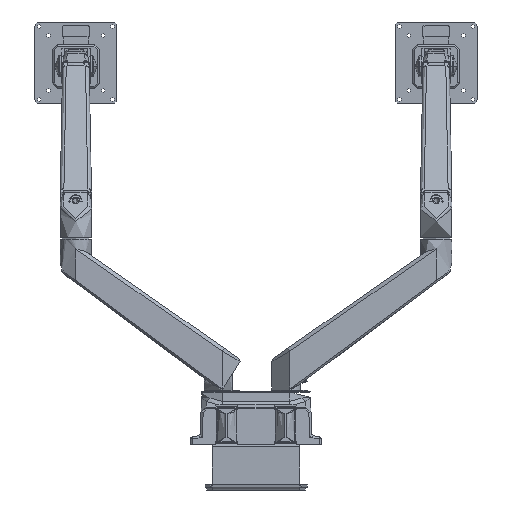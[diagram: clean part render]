
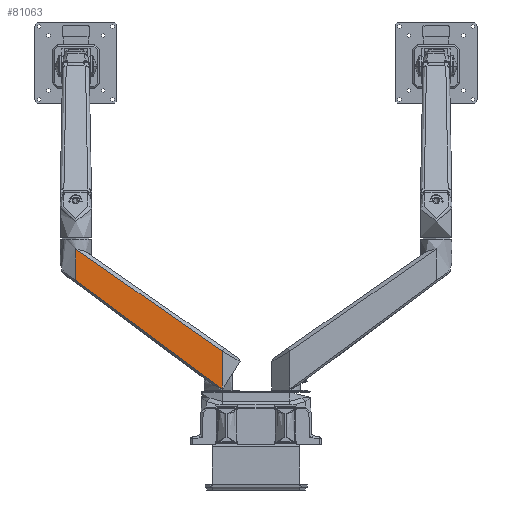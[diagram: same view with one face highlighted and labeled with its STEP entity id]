
A CAD part, front view. The second image highlights one B-rep face of the part: STEP entity #81063.
In plain terms, the highlighted planar face has unit normal (-0.015, -1, 0).
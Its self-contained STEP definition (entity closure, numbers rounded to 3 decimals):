
#3402 = ORIENTED_EDGE ( 'NONE', *, *, #152599, .F. ) ;
#4653 = ORIENTED_EDGE ( 'NONE', *, *, #21325, .T. ) ;
#6690 = CARTESIAN_POINT ( 'NONE',  ( -99.096, 52.805, 134.518 ) ) ;
#12835 = B_SPLINE_CURVE_WITH_KNOTS ( 'NONE', 3,
 ( #102138, #6690, #34051, #129629 ),
 .UNSPECIFIED., .F., .F.,
 ( 4, 4 ),
 ( 0., 1. ),
 .UNSPECIFIED. ) ;
#18416 = EDGE_CURVE ( 'NONE', #137999, #88800, #51818, .T. ) ;
#21325 = EDGE_CURVE ( 'NONE', #137999, #56560, #59361, .T. ) ;
#22261 = VERTEX_POINT ( 'NONE', #43735 ) ;
#24199 = CARTESIAN_POINT ( 'NONE',  ( 122.058, 49.484, 183.369 ) ) ;
#30842 = CARTESIAN_POINT ( 'NONE',  ( 100.886, 49.803, -29.915 ) ) ;
#32194 = AXIS2_PLACEMENT_3D ( 'NONE', #24199, #37897, #133460 ) ;
#33132 = VERTEX_POINT ( 'NONE', #160870 ) ;
#33833 = CARTESIAN_POINT ( 'NONE',  ( -99.11, 52.804, 120.308 ) ) ;
#34051 = CARTESIAN_POINT ( 'NONE',  ( -99.096, 52.805, 148.729 ) ) ;
#37897 = DIRECTION ( 'NONE',  ( -0.015, -1., 0. ) ) ;
#43585 = CARTESIAN_POINT ( 'NONE',  ( -32.451, 51.802, 116.255 ) ) ;
#43735 = CARTESIAN_POINT ( 'NONE',  ( -99.107, 52.803, 162.936 ) ) ;
#43997 = CARTESIAN_POINT ( 'NONE',  ( 100.525, 49.807, -28.656 ) ) ;
#44306 = CARTESIAN_POINT ( 'NONE',  ( 33.956, 50.806, 21.431 ) ) ;
#44400 = ORIENTED_EDGE ( 'NONE', *, *, #87487, .F. ) ;
#49738 = CARTESIAN_POINT ( 'NONE',  ( 100.649, 49.805, -29.915 ) ) ;
#51040 = PLANE ( 'NONE',  #32194 ) ;
#51818 = B_SPLINE_CURVE_WITH_KNOTS ( 'NONE', 3,
 ( #139582, #112115, #43997, #57715 ),
 .UNSPECIFIED., .F., .F.,
 ( 4, 4 ),
 ( 0., 1. ),
 .UNSPECIFIED. ) ;
#56560 = VERTEX_POINT ( 'NONE', #30842 ) ;
#57314 = CARTESIAN_POINT ( 'NONE',  ( -99.107, 52.803, 162.936 ) ) ;
#57715 = CARTESIAN_POINT ( 'NONE',  ( 100.523, 49.807, -28.027 ) ) ;
#58468 = CARTESIAN_POINT ( 'NONE',  ( 100.872, 49.803, 22.908 ) ) ;
#59361 = B_SPLINE_CURVE_WITH_KNOTS ( 'NONE', 3,
 ( #63496, #49738, #77226, #172860 ),
 .UNSPECIFIED., .F., .F.,
 ( 4, 4 ),
 ( 0., 1. ),
 .UNSPECIFIED. ) ;
#60862 = CARTESIAN_POINT ( 'NONE',  ( 100.488, 49.808, -28.008 ) ) ;
#61403 = B_SPLINE_CURVE_WITH_KNOTS ( 'NONE', 3,
 ( #108356, #135830, #176980, #95177 ),
 .UNSPECIFIED., .F., .F.,
 ( 4, 4 ),
 ( 0., 1. ),
 .UNSPECIFIED. ) ;
#63496 = CARTESIAN_POINT ( 'NONE',  ( 100.53, 49.807, -29.915 ) ) ;
#74600 = CARTESIAN_POINT ( 'NONE',  ( 100.511, 49.807, -28.021 ) ) ;
#77077 = B_SPLINE_CURVE_WITH_KNOTS ( 'NONE', 3,
 ( #139878, #44306, #167416, #85508 ),
 .UNSPECIFIED., .F., .F.,
 ( 4, 4 ),
 ( 0., 1. ),
 .UNSPECIFIED. ) ;
#77190 = ORIENTED_EDGE ( 'NONE', *, *, #100212, .T. ) ;
#77226 = CARTESIAN_POINT ( 'NONE',  ( 100.768, 49.804, -29.915 ) ) ;
#81063 = ADVANCED_FACE ( 'NONE', ( #111351 ), #51040, .T. ) ;
#82169 = CARTESIAN_POINT ( 'NONE',  ( 100.488, 49.808, -28.008 ) ) ;
#85508 = CARTESIAN_POINT ( 'NONE',  ( -99.11, 52.804, 120.308 ) ) ;
#87487 = EDGE_CURVE ( 'NONE', #99286, #22261, #12835, .T. ) ;
#88800 = VERTEX_POINT ( 'NONE', #176650 ) ;
#89565 = CARTESIAN_POINT ( 'NONE',  ( 100.53, 49.807, -29.915 ) ) ;
#95177 = CARTESIAN_POINT ( 'NONE',  ( 100.872, 49.803, 22.908 ) ) ;
#96623 = EDGE_CURVE ( 'NONE', #104256, #99286, #77077, .T. ) ;
#96955 = B_SPLINE_CURVE_WITH_KNOTS ( 'NONE', 3,
 ( #57314, #43585, #140372, #58468 ),
 .UNSPECIFIED., .F., .F.,
 ( 4, 4 ),
 ( 0., 1. ),
 .UNSPECIFIED. ) ;
#99286 = VERTEX_POINT ( 'NONE', #33833 ) ;
#100212 = EDGE_CURVE ( 'NONE', #104256, #88800, #117741, .T. ) ;
#101495 = CARTESIAN_POINT ( 'NONE',  ( 100.5, 49.808, -28.014 ) ) ;
#102138 = CARTESIAN_POINT ( 'NONE',  ( -99.11, 52.804, 120.308 ) ) ;
#104256 = VERTEX_POINT ( 'NONE', #82169 ) ;
#108356 = CARTESIAN_POINT ( 'NONE',  ( 100.886, 49.803, -29.915 ) ) ;
#111351 = FACE_OUTER_BOUND ( 'NONE', #173836, .T. ) ;
#112115 = CARTESIAN_POINT ( 'NONE',  ( 100.528, 49.807, -29.285 ) ) ;
#117741 = B_SPLINE_CURVE_WITH_KNOTS ( 'NONE', 3,
 ( #60862, #101495, #74600, #170249 ),
 .UNSPECIFIED., .F., .F.,
 ( 4, 4 ),
 ( 0., 1. ),
 .UNSPECIFIED. ) ;
#129629 = CARTESIAN_POINT ( 'NONE',  ( -99.107, 52.803, 162.936 ) ) ;
#132337 = ORIENTED_EDGE ( 'NONE', *, *, #96623, .F. ) ;
#133460 = DIRECTION ( 'NONE',  ( -1., 0.015, 0. ) ) ;
#135830 = CARTESIAN_POINT ( 'NONE',  ( 100.882, 49.802, -12.307 ) ) ;
#137999 = VERTEX_POINT ( 'NONE', #89565 ) ;
#139582 = CARTESIAN_POINT ( 'NONE',  ( 100.53, 49.807, -29.915 ) ) ;
#139878 = CARTESIAN_POINT ( 'NONE',  ( 100.488, 49.808, -28.008 ) ) ;
#140372 = CARTESIAN_POINT ( 'NONE',  ( 34.211, 50.802, 69.582 ) ) ;
#140882 = EDGE_CURVE ( 'NONE', #56560, #33132, #61403, .T. ) ;
#148690 = ORIENTED_EDGE ( 'NONE', *, *, #18416, .F. ) ;
#149070 = ORIENTED_EDGE ( 'NONE', *, *, #140882, .T. ) ;
#152599 = EDGE_CURVE ( 'NONE', #22261, #33132, #96955, .T. ) ;
#160870 = CARTESIAN_POINT ( 'NONE',  ( 100.872, 49.803, 22.908 ) ) ;
#167416 = CARTESIAN_POINT ( 'NONE',  ( -32.579, 51.804, 70.866 ) ) ;
#170249 = CARTESIAN_POINT ( 'NONE',  ( 100.523, 49.807, -28.027 ) ) ;
#172860 = CARTESIAN_POINT ( 'NONE',  ( 100.886, 49.803, -29.915 ) ) ;
#173836 = EDGE_LOOP ( 'NONE', ( #148690, #4653, #149070, #3402, #44400, #132337, #77190 ) ) ;
#176650 = CARTESIAN_POINT ( 'NONE',  ( 100.523, 49.807, -28.027 ) ) ;
#176980 = CARTESIAN_POINT ( 'NONE',  ( 100.877, 49.802, 5.3 ) ) ;
